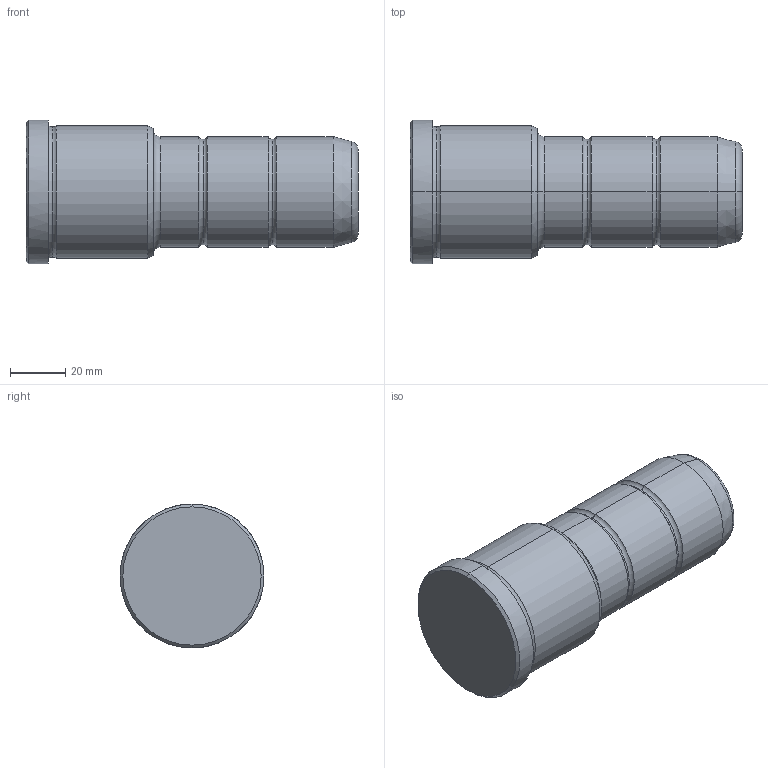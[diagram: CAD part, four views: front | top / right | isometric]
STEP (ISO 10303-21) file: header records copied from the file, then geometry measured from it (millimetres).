
FILE_DESCRIPTION(('CATIA V5 STEP Exchange'),'2;1');
FILE_NAME('C:\Users\Utente\Desktop\IO LAVORO\3D X SITO CF\X SITO\PLASTICA\351\351-40X46X120.stp','2021-10-28T18:37:54+00:00',('none'),('none'),'CATIA Version 5 Release 20 GA (IN-10)','CATIA V5 STEP AP203','none');
FILE_SCHEMA(('CONFIG_CONTROL_DESIGN'));
Length unit declared in the file: millimetre
Products named in the file (1): 351-40X46X120
Bounding box: 120 x 52 x 52 mm (x, y, z)
Volume: 176560.2 mm3; surface area: 20031.6 mm2
Topology: 1 solids, 1 shells, 36 faces, 102 edges, 70 vertices
Faces by surface type: torus 16, cylinder 10, cone 6, plane 4
Entity records: 1292 total; most frequent: CARTESIAN_POINT 321, ORIENTED_EDGE 204, DIRECTION 166, AXIS2_PLACEMENT_3D 115, EDGE_CURVE 102, CIRCLE 78, VERTEX_POINT 70, EDGE_LOOP 38
